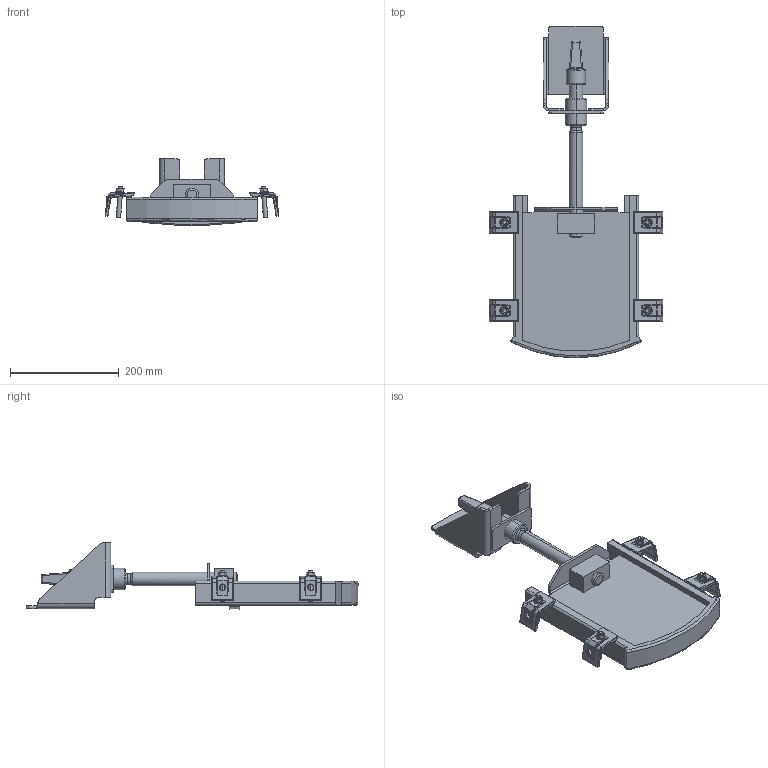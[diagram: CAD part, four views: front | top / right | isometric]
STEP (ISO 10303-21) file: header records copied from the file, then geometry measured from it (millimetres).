
FILE_DESCRIPTION (( 'STEP AP214' ), '1' );
FILE_NAME ('LW 150 Schacht1500 betoniert.STEP', '2022-05-19T08:53:00', ( '' ), ( '' ), 'SwSTEP 2.0', 'SolidWorks 2021', '' );
FILE_SCHEMA (( 'AUTOMOTIVE_DESIGN' ));
Length unit declared in the file: millimetre
Products named in the file (1): LW 150 Schacht1500 betoniert
Bounding box: 319.64 x 610 x 121.77 mm (x, y, z)
Volume: 1511416.3 mm3; surface area: 417443.5 mm2
Topology: 1 solids, 5 shells, 785 faces, 1851 edges, 1042 vertices
Faces by surface type: cylinder 297, plane 248, torus 64, cone 62, sphere 60, bspline 54
Entity records: 32731 total; most frequent: CARTESIAN_POINT 6765, DIRECTION 3727, ORIENTED_EDGE 3582, EDGE_CURVE 1791, AXIS2_PLACEMENT_3D 1460, VERTEX_POINT 1034, EDGE_LOOP 829, VECTOR 807
